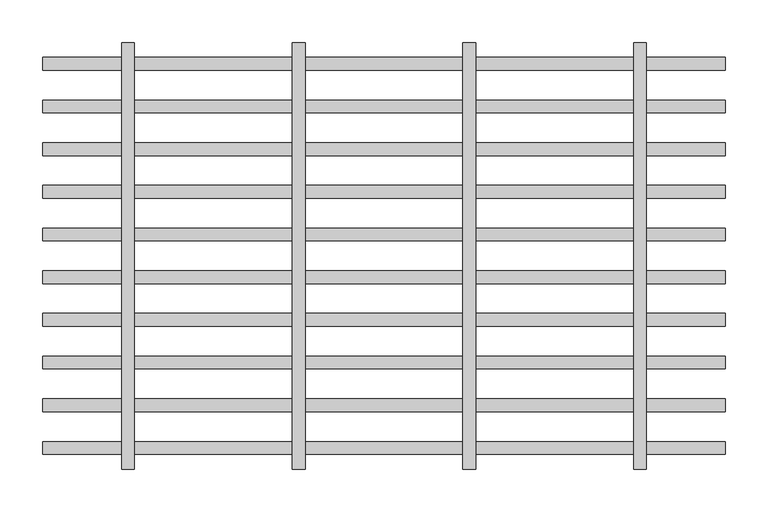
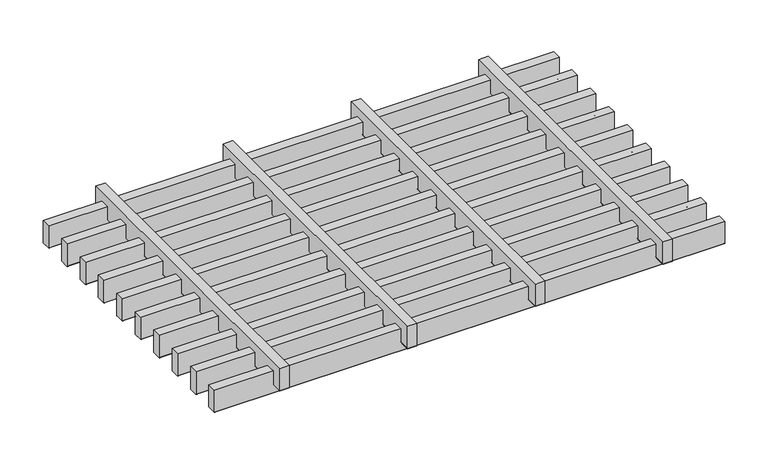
"""IFC4 building model written with IfcOpenShell, lengths in millimetres: proxy geometry, durlum_STARLAM_panel : durlum_STARLAM_15_corner_cut."""

from ifc_helpers import new_model, si_unit, point, frame, frame_2d, origin, place, context, project, spatial, polyline, circle_curve, trimmed, segment, composite_curve, outline, extrude, source, transform, mapped, element, save


def generic_models_9e2ca137(model_context):
    return source(origin(), model_context, "Body", "SweptSolid", [
        extrude(outline(composite_curve([segment(polyline([(-182.5, 37.0), (-167.5, 37.0), (-167.5, 0.5)]), True, "CONTINUOUS"), segment(trimmed(circle_curve(frame_2d((-168.0, 0.5)), 0.5), [point((-167.5, 0.5))], [point((-168.0, 0.0))], False, "CARTESIAN"), True, "CONTINUOUS"), segment(polyline([(-168.0, 0.0), (-182.0, 0.0)]), True, "CONTINUOUS"), segment(trimmed(circle_curve(frame_2d((-182.0, 0.5)), 0.5), [point((-182.0, 0.0))], [point((-182.5, 0.5))], False, "CARTESIAN"), True, "CONTINUOUS"), segment(polyline([(-182.5, 0.5), (-182.5, 37.0)]), True, "CONTINUOUS")], self_intersect=False)), frame((-399.875, 0.0, 0.0), z_axis=(1.0, 0.0, 0.0), x_axis=(0.0, 1.0, 0.0)), (0.0, 0.0, 1.0), 799.75),
        extrude(outline(composite_curve([segment(polyline([(-132.5, 37.0), (-117.5, 37.0), (-117.5, 0.5)]), True, "CONTINUOUS"), segment(trimmed(circle_curve(frame_2d((-118.0, 0.5)), 0.5), [point((-117.5, 0.5))], [point((-118.0, 0.0))], False, "CARTESIAN"), True, "CONTINUOUS"), segment(polyline([(-118.0, 0.0), (-132.0, 0.0)]), True, "CONTINUOUS"), segment(trimmed(circle_curve(frame_2d((-132.0, 0.5)), 0.5), [point((-132.0, 0.0))], [point((-132.5, 0.5))], False, "CARTESIAN"), True, "CONTINUOUS"), segment(polyline([(-132.5, 0.5), (-132.5, 37.0)]), True, "CONTINUOUS")], self_intersect=False)), frame((-399.875, 0.0, 0.0), z_axis=(1.0, 0.0, 0.0), x_axis=(0.0, 1.0, 0.0)), (0.0, 0.0, 1.0), 799.75),
        extrude(outline(composite_curve([segment(polyline([(51.0, 107.5), (51.0, 92.5), (14.5, 92.5)]), True, "CONTINUOUS"), segment(trimmed(circle_curve(frame_2d((14.5, 93.0)), 0.5), [point((14.5, 92.5))], [point((14.0, 93.0))], False, "CARTESIAN"), True, "CONTINUOUS"), segment(polyline([(14.0, 93.0), (14.0, 107.0)]), True, "CONTINUOUS"), segment(trimmed(circle_curve(frame_2d((14.5, 107.0)), 0.5), [point((14.0, 107.0))], [point((14.5, 107.5))], False, "CARTESIAN"), True, "CONTINUOUS"), segment(polyline([(14.5, 107.5), (51.0, 107.5)]), True, "CONTINUOUS")], self_intersect=False)), frame((0.0, -249.75, 0.0), z_axis=(0.0, 1.0, 0.0), x_axis=(0.0, 0.0, 1.0)), (0.0, 0.0, 1.0), 499.5),
        extrude(outline(composite_curve([segment(polyline([(51.0, -92.5), (51.0, -107.5), (14.5, -107.5)]), True, "CONTINUOUS"), segment(trimmed(circle_curve(frame_2d((14.5, -107.0)), 0.5), [point((14.5, -107.5))], [point((14.0, -107.0))], False, "CARTESIAN"), True, "CONTINUOUS"), segment(polyline([(14.0, -107.0), (14.0, -93.0)]), True, "CONTINUOUS"), segment(trimmed(circle_curve(frame_2d((14.5, -93.0)), 0.5), [point((14.0, -93.0))], [point((14.5, -92.5))], False, "CARTESIAN"), True, "CONTINUOUS"), segment(polyline([(14.5, -92.5), (51.0, -92.5)]), True, "CONTINUOUS")], self_intersect=False)), frame((0.0, -249.75, 0.0), z_axis=(0.0, 1.0, 0.0), x_axis=(0.0, 0.0, 1.0)), (0.0, 0.0, 1.0), 499.5),
        extrude(outline(composite_curve([segment(polyline([(-82.5, 37.0), (-67.5, 37.0), (-67.5, 0.5)]), True, "CONTINUOUS"), segment(trimmed(circle_curve(frame_2d((-68.0, 0.5)), 0.5), [point((-67.5, 0.5))], [point((-68.0, 0.0))], False, "CARTESIAN"), True, "CONTINUOUS"), segment(polyline([(-68.0, 0.0), (-82.0, 0.0)]), True, "CONTINUOUS"), segment(trimmed(circle_curve(frame_2d((-82.0, 0.5)), 0.5), [point((-82.0, 0.0))], [point((-82.5, 0.5))], False, "CARTESIAN"), True, "CONTINUOUS"), segment(polyline([(-82.5, 0.5), (-82.5, 37.0)]), True, "CONTINUOUS")], self_intersect=False)), frame((-399.875, 0.0, 0.0), z_axis=(1.0, 0.0, 0.0), x_axis=(0.0, 1.0, 0.0)), (0.0, 0.0, 1.0), 799.75),
        extrude(outline(composite_curve([segment(polyline([(-32.5, 37.0), (-17.5, 37.0), (-17.5, 0.5)]), True, "CONTINUOUS"), segment(trimmed(circle_curve(frame_2d((-18.0, 0.5)), 0.5), [point((-17.5, 0.5))], [point((-18.0, 0.0))], False, "CARTESIAN"), True, "CONTINUOUS"), segment(polyline([(-18.0, 0.0), (-32.0, 0.0)]), True, "CONTINUOUS"), segment(trimmed(circle_curve(frame_2d((-32.0, 0.5)), 0.5), [point((-32.0, 0.0))], [point((-32.5, 0.5))], False, "CARTESIAN"), True, "CONTINUOUS"), segment(polyline([(-32.5, 0.5), (-32.5, 37.0)]), True, "CONTINUOUS")], self_intersect=False)), frame((-399.875, 0.0, 0.0), z_axis=(1.0, 0.0, 0.0), x_axis=(0.0, 1.0, 0.0)), (0.0, 0.0, 1.0), 799.75),
        extrude(outline(composite_curve([segment(polyline([(17.5, 37.0), (32.5, 37.0), (32.5, 0.5)]), True, "CONTINUOUS"), segment(trimmed(circle_curve(frame_2d((32.0, 0.5)), 0.5), [point((32.5, 0.5))], [point((32.0, 0.0))], False, "CARTESIAN"), True, "CONTINUOUS"), segment(polyline([(32.0, 0.0), (18.0, 0.0)]), True, "CONTINUOUS"), segment(trimmed(circle_curve(frame_2d((18.0, 0.5)), 0.5), [point((18.0, 0.0))], [point((17.5, 0.5))], False, "CARTESIAN"), True, "CONTINUOUS"), segment(polyline([(17.5, 0.5), (17.5, 37.0)]), True, "CONTINUOUS")], self_intersect=False)), frame((-399.875, 0.0, 0.0), z_axis=(1.0, 0.0, 0.0), x_axis=(0.0, 1.0, 0.0)), (0.0, 0.0, 1.0), 799.75),
        extrude(outline(composite_curve([segment(polyline([(67.5, 37.0), (82.5, 37.0), (82.5, 0.5)]), True, "CONTINUOUS"), segment(trimmed(circle_curve(frame_2d((82.0, 0.5)), 0.5), [point((82.5, 0.5))], [point((82.0, 0.0))], False, "CARTESIAN"), True, "CONTINUOUS"), segment(polyline([(82.0, 0.0), (68.0, 0.0)]), True, "CONTINUOUS"), segment(trimmed(circle_curve(frame_2d((68.0, 0.5)), 0.5), [point((68.0, 0.0))], [point((67.5, 0.5))], False, "CARTESIAN"), True, "CONTINUOUS"), segment(polyline([(67.5, 0.5), (67.5, 37.0)]), True, "CONTINUOUS")], self_intersect=False)), frame((-399.875, 0.0, 0.0), z_axis=(1.0, 0.0, 0.0), x_axis=(0.0, 1.0, 0.0)), (0.0, 0.0, 1.0), 799.75),
        extrude(outline(composite_curve([segment(polyline([(117.5, 37.0), (132.5, 37.0), (132.5, 0.5)]), True, "CONTINUOUS"), segment(trimmed(circle_curve(frame_2d((132.0, 0.5)), 0.5), [point((132.5, 0.5))], [point((132.0, 0.0))], False, "CARTESIAN"), True, "CONTINUOUS"), segment(polyline([(132.0, 0.0), (118.0, 0.0)]), True, "CONTINUOUS"), segment(trimmed(circle_curve(frame_2d((118.0, 0.5)), 0.5), [point((118.0, 0.0))], [point((117.5, 0.5))], False, "CARTESIAN"), True, "CONTINUOUS"), segment(polyline([(117.5, 0.5), (117.5, 37.0)]), True, "CONTINUOUS")], self_intersect=False)), frame((-399.875, 0.0, 0.0), z_axis=(1.0, 0.0, 0.0), x_axis=(0.0, 1.0, 0.0)), (0.0, 0.0, 1.0), 799.75),
        extrude(outline(composite_curve([segment(polyline([(167.5, 37.0), (182.5, 37.0), (182.5, 0.5)]), True, "CONTINUOUS"), segment(trimmed(circle_curve(frame_2d((182.0, 0.5)), 0.5), [point((182.5, 0.5))], [point((182.0, 0.0))], False, "CARTESIAN"), True, "CONTINUOUS"), segment(polyline([(182.0, 0.0), (168.0, 0.0)]), True, "CONTINUOUS"), segment(trimmed(circle_curve(frame_2d((168.0, 0.5)), 0.5), [point((168.0, 0.0))], [point((167.5, 0.5))], False, "CARTESIAN"), True, "CONTINUOUS"), segment(polyline([(167.5, 0.5), (167.5, 37.0)]), True, "CONTINUOUS")], self_intersect=False)), frame((-399.875, 0.0, 0.0), z_axis=(1.0, 0.0, 0.0), x_axis=(0.0, 1.0, 0.0)), (0.0, 0.0, 1.0), 799.75),
        extrude(outline(composite_curve([segment(polyline([(51.0, 307.5), (51.0, 292.5), (14.5, 292.5)]), True, "CONTINUOUS"), segment(trimmed(circle_curve(frame_2d((14.5, 293.0)), 0.5), [point((14.5, 292.5))], [point((14.0, 293.0))], False, "CARTESIAN"), True, "CONTINUOUS"), segment(polyline([(14.0, 293.0), (14.0, 307.0)]), True, "CONTINUOUS"), segment(trimmed(circle_curve(frame_2d((14.5, 307.0)), 0.5), [point((14.0, 307.0))], [point((14.5, 307.5))], False, "CARTESIAN"), True, "CONTINUOUS"), segment(polyline([(14.5, 307.5), (51.0, 307.5)]), True, "CONTINUOUS")], self_intersect=False)), frame((0.0, -249.75, 0.0), z_axis=(0.0, 1.0, 0.0), x_axis=(0.0, 0.0, 1.0)), (0.0, 0.0, 1.0), 499.5),
        extrude(outline(composite_curve([segment(polyline([(51.0, -292.5), (51.0, -307.5), (14.5, -307.5)]), True, "CONTINUOUS"), segment(trimmed(circle_curve(frame_2d((14.5, -307.0)), 0.5), [point((14.5, -307.5))], [point((14.0, -307.0))], False, "CARTESIAN"), True, "CONTINUOUS"), segment(polyline([(14.0, -307.0), (14.0, -293.0)]), True, "CONTINUOUS"), segment(trimmed(circle_curve(frame_2d((14.5, -293.0)), 0.5), [point((14.0, -293.0))], [point((14.5, -292.5))], False, "CARTESIAN"), True, "CONTINUOUS"), segment(polyline([(14.5, -292.5), (51.0, -292.5)]), True, "CONTINUOUS")], self_intersect=False)), frame((0.0, -249.75, 0.0), z_axis=(0.0, 1.0, 0.0), x_axis=(0.0, 0.0, 1.0)), (0.0, 0.0, 1.0), 499.5),
        extrude(outline(composite_curve([segment(polyline([(-232.5, 37.0), (-217.5, 37.0), (-217.5, 0.5)]), True, "CONTINUOUS"), segment(trimmed(circle_curve(frame_2d((-218.0, 0.5)), 0.5), [point((-217.5, 0.5))], [point((-218.0, 0.0))], False, "CARTESIAN"), True, "CONTINUOUS"), segment(polyline([(-218.0, 0.0), (-232.0, 0.0)]), True, "CONTINUOUS"), segment(trimmed(circle_curve(frame_2d((-232.0, 0.5)), 0.5), [point((-232.0, 0.0))], [point((-232.5, 0.5))], False, "CARTESIAN"), True, "CONTINUOUS"), segment(polyline([(-232.5, 0.5), (-232.5, 37.0)]), True, "CONTINUOUS")], self_intersect=False)), frame((-399.875, 0.0, 0.0), z_axis=(1.0, 0.0, 0.0), x_axis=(0.0, 1.0, 0.0)), (0.0, 0.0, 1.0), 799.75),
        extrude(outline(composite_curve([segment(polyline([(217.5, 37.0), (232.5, 37.0), (232.5, 0.5)]), True, "CONTINUOUS"), segment(trimmed(circle_curve(frame_2d((232.0, 0.5)), 0.5), [point((232.5, 0.5))], [point((232.0, 0.0))], False, "CARTESIAN"), True, "CONTINUOUS"), segment(polyline([(232.0, 0.0), (218.0, 0.0)]), True, "CONTINUOUS"), segment(trimmed(circle_curve(frame_2d((218.0, 0.5)), 0.5), [point((218.0, 0.0))], [point((217.5, 0.5))], False, "CARTESIAN"), True, "CONTINUOUS"), segment(polyline([(217.5, 0.5), (217.5, 37.0)]), True, "CONTINUOUS")], self_intersect=False)), frame((-399.875, 0.0, 0.0), z_axis=(1.0, 0.0, 0.0), x_axis=(0.0, 1.0, 0.0)), (0.0, 0.0, 1.0), 799.75),
    ])


if __name__ == "__main__":
    model = new_model("IFC4")
    model_context = context("Model", 3, world=origin())
    ifc_project = project(units=[si_unit("LENGTHUNIT", "METRE", prefix="MILLI")], contexts=[model_context])
    site = spatial("IfcSite", under=ifc_project)
    building = spatial("IfcBuilding", under=site)
    placement = place(None, origin())
    generic_models_shape = generic_models_9e2ca137(model_context)
    element("IfcBuildingElementProxy", 1, Name="durlum_STARLAM_panel : durlum_STARLAM_15_corner_cut", ObjectType="durlum_STARLAM_panel : durlum_STARLAM_15_corner_cut", at=placement, inside=building, context=model_context, shape_type="MappedRepresentation", body=[
        mapped(generic_models_shape, transform((0.0, 0.0, 0.0), x_axis=(1.0, 0.0, 0.0), y_axis=(0.0, 1.0, 0.0), z_axis=(0.0, 0.0, 1.0))),
    ])
    save(model, "model.ifc")
